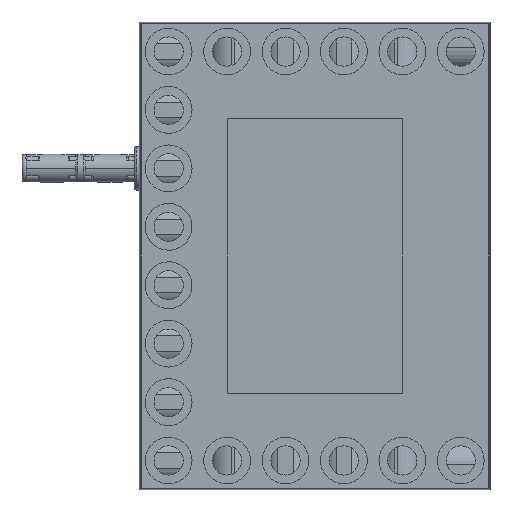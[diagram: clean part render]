
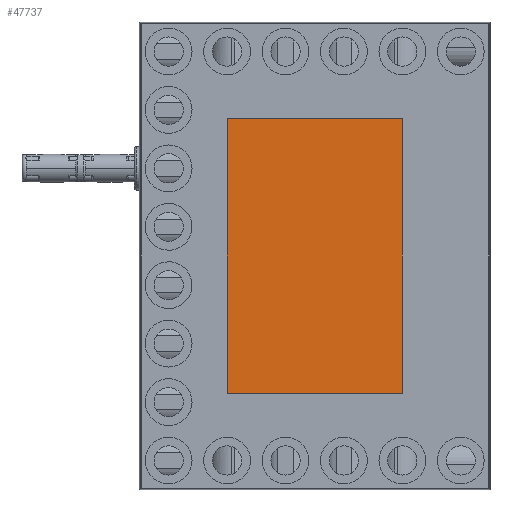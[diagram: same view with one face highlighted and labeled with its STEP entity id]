
A CAD part, front view. The second image highlights one B-rep face of the part: STEP entity #47737.
In plain terms, the highlighted planar face has unit normal (0, -1, 0).
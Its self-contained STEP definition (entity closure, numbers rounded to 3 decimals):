
#40317=DIRECTION('',(-1.,0.,0.));
#40318=VECTOR('',#40317,30.);
#40319=CARTESIAN_POINT('',(-75.,0.5,-23.5));
#40320=LINE('',#40319,#40318);
#40331=DIRECTION('',(0.,0.,1.));
#40332=VECTOR('',#40331,47.);
#40333=CARTESIAN_POINT('',(-105.,0.5,-23.5));
#40334=LINE('',#40333,#40332);
#40345=DIRECTION('',(1.,0.,0.));
#40346=VECTOR('',#40345,30.);
#40347=CARTESIAN_POINT('',(-105.,0.5,23.5));
#40348=LINE('',#40347,#40346);
#40359=DIRECTION('',(0.,0.,-1.));
#40360=VECTOR('',#40359,47.);
#40361=CARTESIAN_POINT('',(-75.,0.5,23.5));
#40362=LINE('',#40361,#40360);
#40805=CARTESIAN_POINT('',(-75.,0.5,-23.5));
#40806=VERTEX_POINT('',#40805);
#40807=CARTESIAN_POINT('',(-105.,0.5,-23.5));
#40808=VERTEX_POINT('',#40807);
#40809=CARTESIAN_POINT('',(-105.,0.5,23.5));
#40810=VERTEX_POINT('',#40809);
#40811=CARTESIAN_POINT('',(-75.,0.5,23.5));
#40812=VERTEX_POINT('',#40811);
#47726=CARTESIAN_POINT('',(-90.,0.5,0.));
#47727=DIRECTION('',(0.,1.,0.));
#47728=DIRECTION('',(0.,0.,1.));
#47729=AXIS2_PLACEMENT_3D('',#47726,#47727,#47728);
#47730=PLANE('',#47729);
#47731=ORIENTED_EDGE('',*,*,#47693,.T.);
#47732=ORIENTED_EDGE('',*,*,#47707,.T.);
#47733=ORIENTED_EDGE('',*,*,#47720,.T.);
#47734=ORIENTED_EDGE('',*,*,#47678,.T.);
#47735=EDGE_LOOP('',(#47731,#47732,#47733,#47734));
#47736=FACE_OUTER_BOUND('',#47735,.F.);
#47737=ADVANCED_FACE('',(#47736),#47730,.F.);
#47678=EDGE_CURVE('',#40806,#40808,#40320,.T.);
#47693=EDGE_CURVE('',#40808,#40810,#40334,.T.);
#47707=EDGE_CURVE('',#40810,#40812,#40348,.T.);
#47720=EDGE_CURVE('',#40812,#40806,#40362,.T.);
